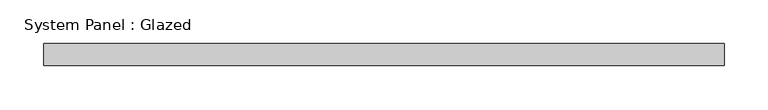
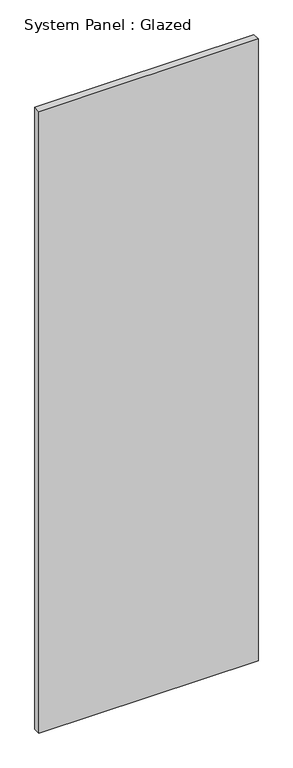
"""IFC4 building model written with IfcOpenShell, lengths in millimetres: plate geometry, System Panel : Glazed."""

import ifcopenshell
import ifcopenshell.guid

model = None  # the IFC model being written
_history = None  # IfcOwnerHistory: only IFC2X3 demands one
_inside = {}  # id of a spatial element -> (the spatial element, [elements in it])
_under = {}  # id of a project, library or spatial element -> (it, [spatial elements below it])
_declared = {}  # id of a project -> (the project, [libraries it declares])
_typed = {}  # id of a type object -> (the type object, [elements of that type])
_made_of = {}  # id of a material, layer set ... -> (it, [elements and type objects made of it])


def new_model(schema):
    """Start an empty IFC model of exactly this schema.

    Asked for "IFC4X3", IfcOpenShell would pick the latest addendum, in which some entities
    have other attributes; the version numbers below select the first issue.
    IFC2X3 requires an IfcOwnerHistory on every rooted entity: one is made here for all.
    """
    global model, _history
    if schema == "IFC4X3":
        model = ifcopenshell.file(schema_version=(4, 3, 0, 0))
    else:
        model = ifcopenshell.file(schema=schema)
    _inside.clear()
    _under.clear()
    _declared.clear()
    _typed.clear()
    _made_of.clear()
    _history = None
    if model.schema == "IFC2X3":
        org = make("IfcOrganization", Name="unknown")
        user = make(
            "IfcPersonAndOrganization",
            ThePerson=make("IfcPerson", FamilyName="unknown"),
            TheOrganization=org,
        )
        app = make(
            "IfcApplication",
            ApplicationDeveloper=org,
            Version="unknown",
            ApplicationFullName="unknown",
            ApplicationIdentifier="unknown",
        )
        _history = make(
            "IfcOwnerHistory",
            OwningUser=user,
            OwningApplication=app,
            ChangeAction="ADDED",
            CreationDate=0,
        )
    return model


def make(cls, **values):
    """One entity of the class cls with the attributes given. An attribute that is None is left unset."""
    return model.create_entity(
        cls, **{name: value for name, value in values.items() if value is not None}
    )


def rooted(cls, **values):
    """An entity with a GlobalId (a new one), such as an element, a storey or a relation."""
    return make(cls, GlobalId=ifcopenshell.guid.new(), OwnerHistory=_history, **values)


def si_unit(unit_type, name, prefix=None):
    """IfcSIUnit, for example si_unit("LENGTHUNIT", "METRE", prefix="MILLI")."""
    return make("IfcSIUnit", UnitType=unit_type, Prefix=prefix, Name=name)


def assignment(units):
    """IfcUnitAssignment: the units of a project."""
    return None if units is None else make("IfcUnitAssignment", Units=units)


def point(xyz):
    """IfcCartesianPoint."""
    return None if xyz is None else make("IfcCartesianPoint", Coordinates=xyz)


def direction(xyz):
    """IfcDirection."""
    return None if xyz is None else make("IfcDirection", DirectionRatios=xyz)


def frame(location, z_axis=None, x_axis=None):
    """IfcAxis2Placement3D, a coordinate frame: its origin and axes. An axis left out is left unset."""
    return make(
        "IfcAxis2Placement3D",
        Location=point(location),
        Axis=direction(z_axis),
        RefDirection=direction(x_axis),
    )


def origin():
    """The frame at (0, 0, 0) with its axes left unset."""
    return frame((0.0, 0.0, 0.0))


def origin_with_axes():
    """The frame at (0, 0, 0) with the z axis (0, 0, 1) and the x axis (1, 0, 0) written out."""
    return frame((0.0, 0.0, 0.0), z_axis=(0.0, 0.0, 1.0), x_axis=(1.0, 0.0, 0.0))


def place(relative_to, where):
    """IfcLocalPlacement: puts the frame where relative to a parent placement (None: the world)."""
    return make(
        "IfcLocalPlacement", PlacementRelTo=relative_to, RelativePlacement=where
    )


def context(
    kind, dimensions, precision=None, world=None, true_north=None, identifier=None
):
    """IfcGeometricRepresentationContext, for example the 3D "Model" context."""
    return make(
        "IfcGeometricRepresentationContext",
        ContextIdentifier=identifier,
        ContextType=kind,
        CoordinateSpaceDimension=dimensions,
        Precision=precision,
        WorldCoordinateSystem=world,
        TrueNorth=true_north,
    )


def project(units=None, contexts=None):
    """IfcProject with its units and contexts."""
    return rooted(
        "IfcProject",
        Name="project",
        RepresentationContexts=contexts,
        UnitsInContext=assignment(units),
    )


def spatial(cls, under=None, at=None, **own):
    """A site, building, storey or space (cls), placed at a placement, below another one or the project."""
    s = rooted(cls, ObjectPlacement=at, **own)
    if under is not None:
        _under.setdefault(under.id(), (under, []))[1].append(s)
    return s


def polyline(points):
    """IfcPolyline through the points."""
    return make("IfcPolyline", Points=[point(p) for p in points])


def outline(outer, holes=None, kind="AREA"):
    """IfcArbitraryClosedProfileDef: a profile drawn as a closed curve; with holes, ...WithVoids."""
    if holes is None:
        return make("IfcArbitraryClosedProfileDef", ProfileType=kind, OuterCurve=outer)
    return make(
        "IfcArbitraryProfileDefWithVoids",
        ProfileType=kind,
        OuterCurve=outer,
        InnerCurves=holes,
    )


def extrude(swept, where, along, depth):
    """IfcExtrudedAreaSolid: the profile swept, set in the frame where, extruded along a direction by depth."""
    return make(
        "IfcExtrudedAreaSolid",
        SweptArea=swept,
        Position=where,
        ExtrudedDirection=direction(along),
        Depth=depth,
    )


def shape(context_of_items, identifier, shape_type, items):
    """IfcShapeRepresentation: the items that make up one representation, for example the "Body"."""
    return make(
        "IfcShapeRepresentation",
        ContextOfItems=context_of_items,
        RepresentationIdentifier=identifier,
        RepresentationType=shape_type,
        Items=items,
    )


def source(mapping_origin, context_of_items, identifier, shape_type, items):
    """IfcRepresentationMap: a shape defined once, which mapped items show again and again."""
    return make(
        "IfcRepresentationMap",
        MappingOrigin=mapping_origin,
        MappedRepresentation=shape(context_of_items, identifier, shape_type, items),
    )


def transform(
    local_origin,
    x_axis=None,
    y_axis=None,
    z_axis=None,
    scale=None,
    scale2=None,
    scale3=None,
    uniform=True,
):
    """IfcCartesianTransformationOperator3D, or its non-uniform kind. x_axis, y_axis, z_axis: its Axis1, 2, 3."""
    if uniform:
        return make(
            "IfcCartesianTransformationOperator3D",
            Axis1=direction(x_axis),
            Axis2=direction(y_axis),
            LocalOrigin=point(local_origin),
            Scale=scale,
            Axis3=direction(z_axis),
        )
    return make(
        "IfcCartesianTransformationOperator3DnonUniform",
        Axis1=direction(x_axis),
        Axis2=direction(y_axis),
        LocalOrigin=point(local_origin),
        Scale=scale,
        Axis3=direction(z_axis),
        Scale2=scale2,
        Scale3=scale3,
    )


def mapped(mapping_source, mapping_target):
    """IfcMappedItem: shows the shape of a source again, moved by a transform."""
    return make(
        "IfcMappedItem", MappingSource=mapping_source, MappingTarget=mapping_target
    )


def made_of(thing, what):
    """Note that an element or type object is made of a material, layer set ...; save() writes the relation."""
    if what is not None:
        _made_of.setdefault(what.id(), (what, []))[1].append(thing)
    return thing


def element(
    cls,
    number,
    at=None,
    inside=None,
    cuts=None,
    type_object=None,
    material=None,
    context=None,
    identifier="Body",
    shape_type=None,
    held_by="IfcProductDefinitionShape",
    body=None,
    shapes=None,
    **own,
):
    """One element of the class cls, such as IfcWall. Its Tag is "e" and its number.

    at: its placement. inside: the storey or other place that contains it. cuts: it is an
    opening in that element (IfcRelVoidsElement). A single representation is given by context,
    identifier, shape_type and body (its items); several are given by shapes. held_by: the class
    of the entity that holds the representations. save() writes the other relations.
    """
    e = rooted(cls, Tag="e%d" % number, ObjectPlacement=at, **own)
    if body is not None:
        shapes = [shape(context, identifier, shape_type, body)]
    if shapes is not None:
        e.Representation = make(held_by, Representations=shapes)
    if inside is not None:
        _inside.setdefault(inside.id(), (inside, []))[1].append(e)
    if cuts is not None:
        rooted(
            "IfcRelVoidsElement", RelatingBuildingElement=cuts, RelatedOpeningElement=e
        )
    if type_object is not None:
        _typed.setdefault(type_object.id(), (type_object, []))[1].append(e)
    return made_of(e, material)


def aggregate(whole, parts):
    """IfcRelAggregates: a whole, such as a stair, and the parts it consists of."""
    return rooted("IfcRelAggregates", RelatingObject=whole, RelatedObjects=parts)


def save(model, path):
    """Write the relations noted so far, then the file.

    IfcRelAggregates (storeys below a building ...), IfcRelContainedInSpatialStructure (elements
    in a storey), IfcRelDefinesByType, IfcRelAssociatesMaterial and IfcRelDeclares: one each for
    every whole, place, type object, material and project.
    """
    for whole, parts in _under.values():
        aggregate(whole, parts)
    for where, things in _inside.values():
        rooted(
            "IfcRelContainedInSpatialStructure",
            RelatedElements=things,
            RelatingStructure=where,
        )
    for kind, things in _typed.values():
        rooted("IfcRelDefinesByType", RelatedObjects=things, RelatingType=kind)
    for what, things in _made_of.values():
        rooted("IfcRelAssociatesMaterial", RelatedObjects=things, RelatingMaterial=what)
    for by, libraries in _declared.values():
        rooted("IfcRelDeclares", RelatingContext=by, RelatedDefinitions=libraries)
    model.write(path)


def system_panel_glazed_53f904c2(model_context):
    return source(origin(), model_context, "Body", "SweptSolid", [
        extrude(outline(polyline([(387.5, 24.5), (-387.5, 24.5), (-387.5, 49.5), (387.5, 49.5), (387.5, 24.5)])), origin_with_axes(), (0.0, 0.0, 1.0), 2325.0),
    ])


if __name__ == "__main__":
    model = new_model("IFC4")
    model_context = context("Model", 3, world=origin())
    ifc_project = project(units=[si_unit("LENGTHUNIT", "METRE", prefix="MILLI")], contexts=[model_context])
    site = spatial("IfcSite", under=ifc_project)
    building = spatial("IfcBuilding", under=site)
    placement = place(None, origin())
    system_panel_glazed_shape = system_panel_glazed_53f904c2(model_context)
    element("IfcPlate", 1, ObjectType="System Panel : Glazed", at=placement, inside=building, context=model_context, shape_type="MappedRepresentation", body=[
        mapped(system_panel_glazed_shape, transform((0.0, 0.0, 0.0), x_axis=(1.0, 0.0, 0.0), y_axis=(0.0, 1.0, 0.0), z_axis=(0.0, 0.0, 1.0))),
    ])
    save(model, "model.ifc")
